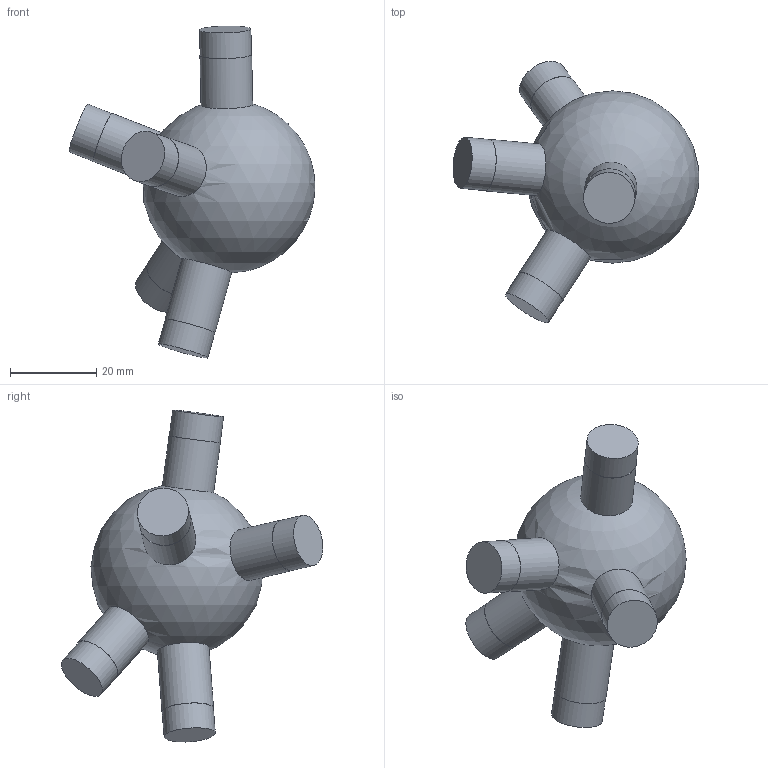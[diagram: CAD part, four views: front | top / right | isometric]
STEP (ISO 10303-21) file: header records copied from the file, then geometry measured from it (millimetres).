
FILE_DESCRIPTION(('Open CASCADE Model'),'2;1');
FILE_NAME('Open CASCADE Shape Model','2026-10-21T12:47:57',('Author'),( 'Open CASCADE'),'Open CASCADE STEP processor 7.9','Open CASCADE 7.9' ,'Unknown');
FILE_SCHEMA(('AUTOMOTIVE_DESIGN { 1 0 10303 214 1 1 1 1 }'));
Length unit declared in the file: millimetre
Products named in the file (1): Open CASCADE STEP translator 7.9 47
Bounding box: 57.02 x 60.66 x 76.98 mm (x, y, z)
Volume: 43653 mm3; surface area: 8490.9 mm2
Topology: 1 solids, 1 shells, 21 faces, 33 edges, 22 vertices
Faces by surface type: cylinder 10, plane 10, sphere 1
Full cylindrical faces by diameter (mm): 11.9 x5, 12 x5
Entity records: 1342 total; most frequent: CARTESIAN_POINT 570, DIRECTION 159, ORIENTED_EDGE 66, PCURVE 66, DEFINITIONAL_REPRESENTATION 66, LINE 54, VECTOR 54, AXIS2_PLACEMENT_3D 45
